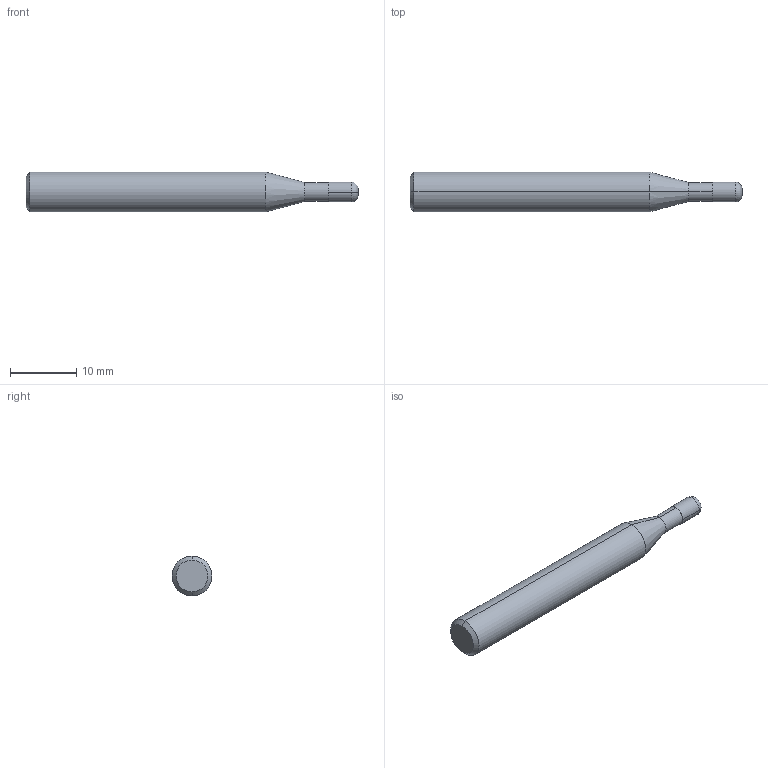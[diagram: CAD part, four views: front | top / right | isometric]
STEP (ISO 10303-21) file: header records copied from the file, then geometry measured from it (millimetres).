
FILE_DESCRIPTION (( 'STEP AP214' ), '1' );
FILE_NAME ('SEME610301008E.STEP', '2018-03-30T00:56:27', ( '' ), ( '' ), 'SwSTEP 2.0', 'SolidWorks 2014', '' );
FILE_SCHEMA (( 'AUTOMOTIVE_DESIGN' ));
Length unit declared in the file: millimetre
Products named in the file (1): SEME610301008E
Bounding box: 50 x 6 x 6 mm (x, y, z)
Volume: 1164.8 mm3; surface area: 876.4 mm2
Topology: 2 solids, 2 shells, 16 faces, 28 edges, 16 vertices
Faces by surface type: cylinder 6, cone 4, plane 4, torus 2
Entity records: 429 total; most frequent: DIRECTION 80, CARTESIAN_POINT 61, ORIENTED_EDGE 56, AXIS2_PLACEMENT_3D 35, EDGE_CURVE 28, CIRCLE 18, VERTEX_POINT 16, FACE_OUTER_BOUND 16
